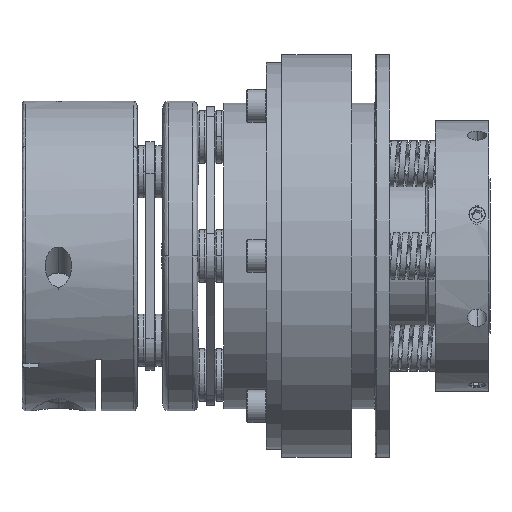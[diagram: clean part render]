
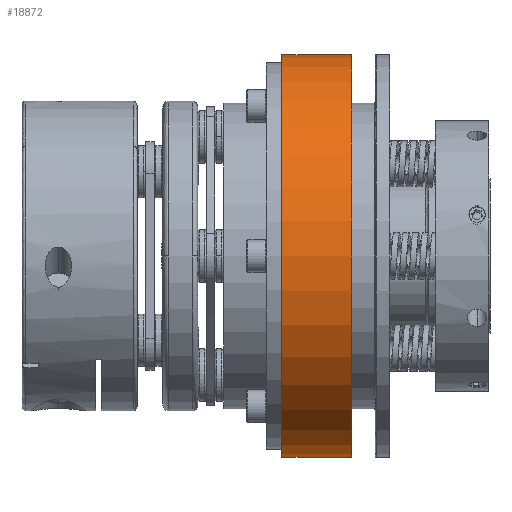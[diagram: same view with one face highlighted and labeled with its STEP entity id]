
A CAD part, front view. The second image highlights one B-rep face of the part: STEP entity #18872.
In plain terms, the highlighted cylindrical face has radius 52 mm (diameter 104 mm), a partial arc.
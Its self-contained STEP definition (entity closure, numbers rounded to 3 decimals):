
#2321 = CARTESIAN_POINT ( 'NONE',  ( 0., 0., 0. ) ) ;
#2985 = CARTESIAN_POINT ( 'NONE',  ( -35.75, 0., 0. ) ) ;
#5278 = EDGE_CURVE ( 'NONE', #17804, #25389, #7416, .T. ) ;
#6167 = ORIENTED_EDGE ( 'NONE', *, *, #28713, .T. ) ;
#6406 = DIRECTION ( 'NONE',  ( 0., 0., -1. ) ) ;
#7416 = LINE ( 'NONE', #34614, #54967 ) ;
#12324 = CARTESIAN_POINT ( 'NONE',  ( 0., 0., -52. ) ) ;
#12514 = DIRECTION ( 'NONE',  ( 1., 0., 0. ) ) ;
#13138 = EDGE_CURVE ( 'NONE', #42018, #50434, #24210, .T. ) ;
#14722 = CIRCLE ( 'NONE', #29793, 52. ) ;
#15051 = ORIENTED_EDGE ( 'NONE', *, *, #50753, .F. ) ;
#15215 = FACE_OUTER_BOUND ( 'NONE', #51923, .T. ) ;
#17804 = VERTEX_POINT ( 'NONE', #25791 ) ;
#18872 = ADVANCED_FACE ( 'NONE', ( #15215 ), #38590, .T. ) ;
#19377 = DIRECTION ( 'NONE',  ( 0., 0., -1. ) ) ;
#20845 = ORIENTED_EDGE ( 'NONE', *, *, #13138, .T. ) ;
#22415 = CARTESIAN_POINT ( 'NONE',  ( -35.75, 0., -52. ) ) ;
#24210 = LINE ( 'NONE', #12324, #29536 ) ;
#25389 = VERTEX_POINT ( 'NONE', #40945 ) ;
#25791 = CARTESIAN_POINT ( 'NONE',  ( -53.75, 0., 52. ) ) ;
#27424 = CIRCLE ( 'NONE', #36077, 52. ) ;
#28713 = EDGE_CURVE ( 'NONE', #17804, #42018, #14722, .T. ) ;
#29536 = VECTOR ( 'NONE', #12514, 1000. ) ;
#29793 = AXIS2_PLACEMENT_3D ( 'NONE', #40968, #32330, #19377 ) ;
#32221 = DIRECTION ( 'NONE',  ( 1., 0., 0. ) ) ;
#32330 = DIRECTION ( 'NONE',  ( 1., 0., 0. ) ) ;
#33080 = DIRECTION ( 'NONE',  ( 1., 0., 0. ) ) ;
#34126 = AXIS2_PLACEMENT_3D ( 'NONE', #2321, #32221, #6406 ) ;
#34614 = CARTESIAN_POINT ( 'NONE',  ( 0., 0., 52. ) ) ;
#36077 = AXIS2_PLACEMENT_3D ( 'NONE', #2985, #33080, #46166 ) ;
#38496 = ORIENTED_EDGE ( 'NONE', *, *, #5278, .F. ) ;
#38590 = CYLINDRICAL_SURFACE ( 'NONE', #34126, 52. ) ;
#40945 = CARTESIAN_POINT ( 'NONE',  ( -35.75, 0., 52. ) ) ;
#40968 = CARTESIAN_POINT ( 'NONE',  ( -53.75, 0., 0. ) ) ;
#42018 = VERTEX_POINT ( 'NONE', #54789 ) ;
#46166 = DIRECTION ( 'NONE',  ( 0., 0., -1. ) ) ;
#50434 = VERTEX_POINT ( 'NONE', #22415 ) ;
#50753 = EDGE_CURVE ( 'NONE', #25389, #50434, #27424, .T. ) ;
#51311 = DIRECTION ( 'NONE',  ( 1., 0., 0. ) ) ;
#51923 = EDGE_LOOP ( 'NONE', ( #38496, #6167, #20845, #15051 ) ) ;
#54789 = CARTESIAN_POINT ( 'NONE',  ( -53.75, 0., -52. ) ) ;
#54967 = VECTOR ( 'NONE', #51311, 1000. ) ;
